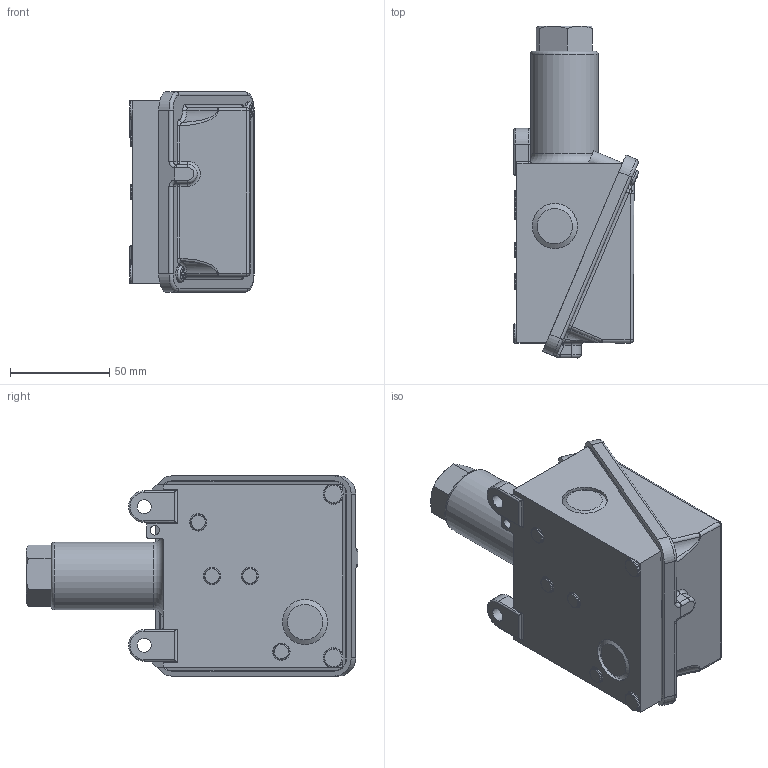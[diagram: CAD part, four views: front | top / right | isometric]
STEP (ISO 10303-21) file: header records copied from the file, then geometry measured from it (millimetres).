
FILE_DESCRIPTION (( 'STEP AP214' ), '1' );
FILE_NAME ('H100-701_706_V4.STEP', '2025-02-28T14:58:55', ( '' ), ( '' ), 'SwSTEP 2.0', 'SolidWorks 2023', '' );
FILE_SCHEMA (( 'AUTOMOTIVE_DESIGN' ));
Length unit declared in the file: inch
Products named in the file (1): H100-701_706_V4
Bounding box: 62.62 x 167.16 x 100.84 mm (x, y, z)
Surface area: 55420.8 mm2 (no closed solid volume)
Topology: 0 solids, 6 shells, 251 faces, 620 edges, 376 vertices
Faces by surface type: cylinder 86, plane 84, torus 42, bspline 16, cone 13, sphere 10
Full cylindrical faces by diameter (mm): 1.321 x2, 3.797 x1, 4.763 x1, 7.112 x2, 7.937 x2, 7.938 x2, 8.179 x2, 9.525 x2, 22.733 x2, 34.131 x1
Entity records: 7748 total; most frequent: CARTESIAN_POINT 2093, DIRECTION 1228, ORIENTED_EDGE 1072, EDGE_CURVE 571, AXIS2_PLACEMENT_3D 498, VERTEX_POINT 371, EDGE_LOOP 317, FACE_OUTER_BOUND 284
